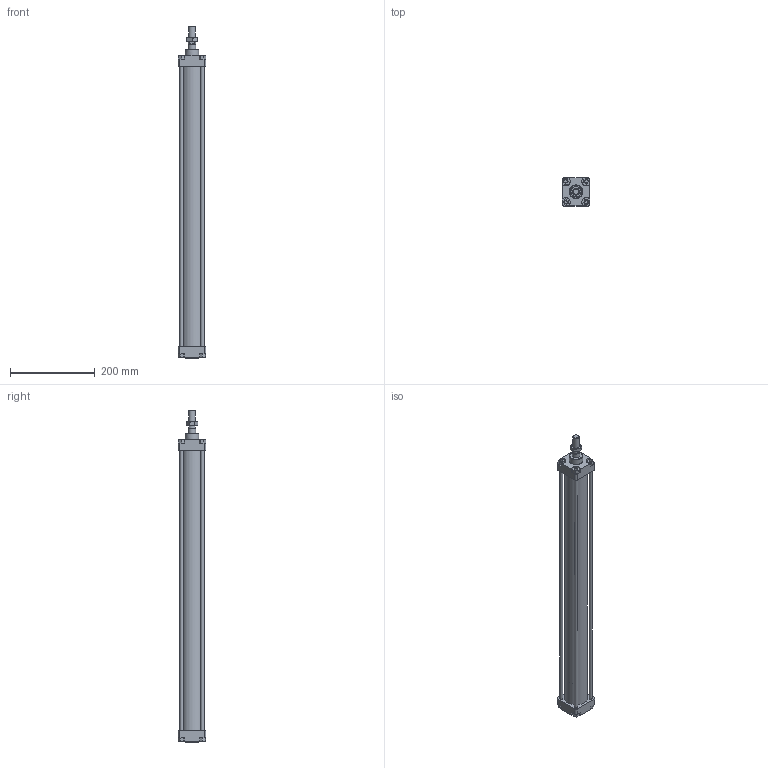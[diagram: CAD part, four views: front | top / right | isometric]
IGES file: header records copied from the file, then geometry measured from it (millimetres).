
Global section: file name: 1303_050_0600_01A; native system: Autodesk Inventor 2014; preprocessor: unknown; author: A. Manieri; date: 20161123.150306; units: millimetre
Bounding box: 65 x 65 x 782 mm (x, y, z)
Volume: 826799.5 mm3; surface area: 380381.2 mm2
Topology: 9 solids, 9 shells, 163 faces, 401 edges, 268 vertices
Faces by surface type: bspline 163
